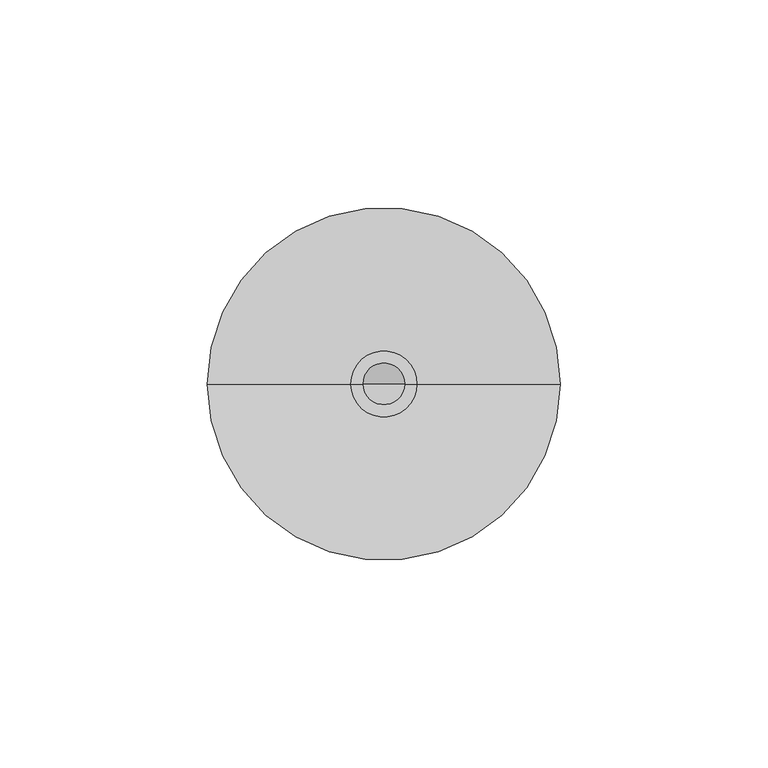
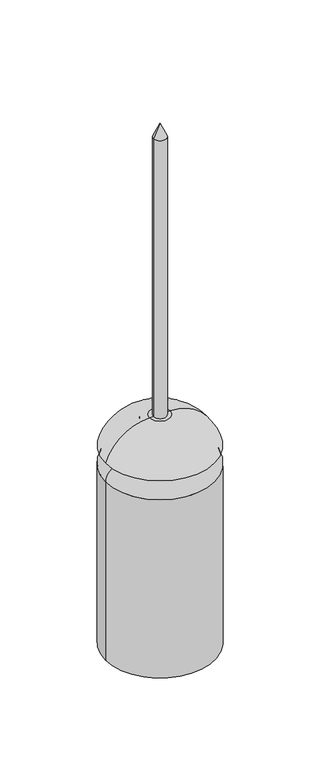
"""IFC4 building model written with IfcOpenShell, lengths in millimetres: proxy geometry, КНС_ESEМолниеприемник_DKC : NI0030_Нержавеющая сталь V4A."""

from ifc_helpers import new_model, si_unit, point, frame, origin, place, context, project, spatial, polyline, circle_curve, ellipse_curve, trimmed, source, transform, mapped, element, save
from ifc_brep_helpers import plane_surface, cylinder_surface, revolved_surface, advanced_brep


def security_devices_906a7fbe(model_context):
    return source(origin(), model_context, "Body", "AdvancedBrep", [
        advanced_brep(
        [(5.0, 0.0, 418.2774654), (-5.0, 0.0, 418.2774654), (0.0, 0.0, 429.0), (5.0, 0.0, 189.5), (-5.0, 0.0, 189.5), (0.0, 0.0, 189.5)],
        [
            (0, 1, circle_curve(frame((0.0, 0.0, 418.2774654), z_axis=(0.0, 0.0, 1.0), x_axis=(-1.0, 0.0, 0.0)), 5.0)),
            (1, 2),
            (2, 0),
            (1, 0, circle_curve(frame((0.0, 0.0, 418.2774654), z_axis=(0.0, 0.0, 1.0), x_axis=(-1.0, 0.0, 0.0)), 5.0)),
            (3, 4, circle_curve(frame((0.0, 0.0, 189.5), z_axis=(0.0, 0.0, 1.0), x_axis=(-1.0, 0.0, 0.0)), 5.0)),
            (4, 1),
            (0, 3),
            (4, 3, circle_curve(frame((0.0, 0.0, 189.5), z_axis=(0.0, 0.0, 1.0), x_axis=(-1.0, 0.0, 0.0)), 5.0)),
            (5, 4),
            (3, 5),
        ],
        [
            revolved_surface(polyline([(0.0, 0.0, 429.0), (-5.0, 0.0, 418.2774654)]), (0.0, 0.0, 2264.3150031), (0.0, 0.0, -1.0)),
            cylinder_surface(frame((0.0, 0.0, 2264.3150031), z_axis=(0.0, 0.0, -1.0), x_axis=(-1.0, 0.0, 0.0)), 5.0),
            plane_surface(frame((0.0, 0.0, 189.5), z_axis=(0.0, 0.0, -1.0), x_axis=(-1.0, 0.0, 0.0))),
        ],
        [
            (0, [[1, 2, 3]]),
            (0, [[4, -3, -2]]),
            (1, [[5, 6, -1, 7]]),
            (1, [[8, -7, -4, -6]]),
            (2, [[9, -5, 10]]),
            (2, [[-10, -8, -9]]),
        ],
    ),
        advanced_brep(
        [(0.0, 0.0, 0.0), (-14.0, 0.0, 0.0), (14.0, 0.0, 0.0), (7.9645399, 0.0, 189.5), (-7.9645399, 0.0, 189.5), (0.0, 0.0, 189.5), (42.5, 0.0, 164.4085195), (-42.5, 0.0, 164.4085195), (41.4469613, 0.0, 164.4085195), (-41.4469613, 0.0, 164.4085195), (14.0, 0.0, 187.9804033), (-14.0, 0.0, 187.9804033), (14.0, 0.0, 159.5), (-14.0, 0.0, 159.5), (29.8018389, 0.0, 159.5), (-29.8018389, 0.0, 159.5), (42.5, 0.0, 148.8449777), (-42.5, 0.0, 148.8449777), (42.5, 0.0, 2.0), (-42.5, 0.0, 2.0), (41.5, 0.0, 2.0), (-41.5, 0.0, 2.0), (41.5, 0.0, 27.0), (-41.5, 0.0, 27.0), (14.0, 0.0, 27.0), (-14.0, 0.0, 27.0)],
        [
            (0, 1),
            (1, 2, circle_curve(frame((0.0, 0.0, 0.0), z_axis=(0.0, 0.0, -1.0), x_axis=(-1.0, 0.0, 0.0)), 14.0)),
            (2, 0),
            (2, 1, circle_curve(frame((0.0, 0.0, 0.0), z_axis=(0.0, 0.0, -1.0), x_axis=(-1.0, 0.0, 0.0)), 14.0)),
            (3, 4, circle_curve(frame((0.0, 0.0, 189.5), z_axis=(0.0, 0.0, 1.0), x_axis=(-1.0, 0.0, 0.0)), 7.9645399)),
            (4, 5),
            (5, 3),
            (4, 3, circle_curve(frame((0.0, 0.0, 189.5), z_axis=(0.0, 0.0, 1.0), x_axis=(-1.0, 0.0, 0.0)), 7.9645399)),
            (6, 7, circle_curve(frame((0.0, 0.0, 164.4085195), z_axis=(0.0, 0.0, 1.0), x_axis=(-1.0, 0.0, 0.0)), 42.5)),
            (7, 4, circle_curve(frame((-7.9645399, 0.0, 153.1872683), z_axis=(0.0, 1.0, 0.0), x_axis=(1.0, 0.0, 0.0)), 36.3127317)),
            (3, 6, circle_curve(frame((7.9645399, 0.0, 153.1872683), z_axis=(0.0, 1.0, 0.0), x_axis=(-1.0, 0.0, 0.0)), 36.3127317)),
            (7, 6, circle_curve(frame((0.0, 0.0, 164.4085195), z_axis=(0.0, 0.0, 1.0), x_axis=(-1.0, 0.0, 0.0)), 42.5)),
            (8, 9, circle_curve(frame((0.0, 0.0, 164.4085195), z_axis=(0.0, 0.0, 1.0), x_axis=(-1.0, 0.0, 0.0)), 41.4469613)),
            (9, 7),
            (6, 8),
            (9, 8, circle_curve(frame((0.0, 0.0, 164.4085195), z_axis=(0.0, 0.0, 1.0), x_axis=(-1.0, 0.0, 0.0)), 41.4469613)),
            (10, 11, circle_curve(frame((0.0, 0.0, 187.9804033), z_axis=(0.0, 0.0, 1.0), x_axis=(-1.0, 0.0, 0.0)), 14.0)),
            (11, 9, circle_curve(frame((-7.9645399, 0.0, 153.1872683), z_axis=(0.0, -1.0, 0.0), x_axis=(1.0, 0.0, 0.0)), 35.3127317)),
            (8, 10, circle_curve(frame((7.9645399, 0.0, 153.1872683), z_axis=(0.0, -1.0, 0.0), x_axis=(-1.0, 0.0, 0.0)), 35.3127317)),
            (11, 10, circle_curve(frame((0.0, 0.0, 187.9804033), z_axis=(0.0, 0.0, 1.0), x_axis=(-1.0, 0.0, 0.0)), 14.0)),
            (12, 13, circle_curve(frame((0.0, 0.0, 159.5), z_axis=(0.0, 0.0, 1.0), x_axis=(-1.0, 0.0, 0.0)), 14.0)),
            (13, 11),
            (10, 12),
            (13, 12, circle_curve(frame((0.0, 0.0, 159.5), z_axis=(0.0, 0.0, 1.0), x_axis=(-1.0, 0.0, 0.0)), 14.0)),
            (14, 15, circle_curve(frame((0.0, 0.0, 159.5), z_axis=(0.0, 0.0, 1.0), x_axis=(-1.0, 0.0, 0.0)), 29.8018389)),
            (15, 13),
            (12, 14),
            (15, 14, circle_curve(frame((0.0, 0.0, 159.5), z_axis=(0.0, 0.0, 1.0), x_axis=(-1.0, 0.0, 0.0)), 29.8018389)),
            (16, 17, circle_curve(frame((0.0, 0.0, 148.8449777), z_axis=(0.0, 0.0, 1.0), x_axis=(-1.0, 0.0, 0.0)), 42.5)),
            (17, 15, circle_curve(frame((-31.6806068, 0.0, 148.8449777), z_axis=(0.0, 1.0, 0.0), x_axis=(1.0, 0.0, 0.0)), 10.8193932)),
            (14, 16, circle_curve(frame((31.6806068, 0.0, 148.8449777), z_axis=(0.0, 1.0, 0.0), x_axis=(-1.0, 0.0, 0.0)), 10.8193932)),
            (17, 16, circle_curve(frame((0.0, 0.0, 148.8449777), z_axis=(0.0, 0.0, 1.0), x_axis=(-1.0, 0.0, 0.0)), 42.5)),
            (18, 19, circle_curve(frame((0.0, 0.0, 2.0), z_axis=(0.0, 0.0, 1.0), x_axis=(-1.0, 0.0, 0.0)), 42.5)),
            (19, 17),
            (16, 18),
            (19, 18, circle_curve(frame((0.0, 0.0, 2.0), z_axis=(0.0, 0.0, 1.0), x_axis=(-1.0, 0.0, 0.0)), 42.5)),
            (20, 21, circle_curve(frame((0.0, 0.0, 2.0), z_axis=(0.0, 0.0, 1.0), x_axis=(-1.0, 0.0, 0.0)), 41.5)),
            (21, 19),
            (18, 20),
            (21, 20, circle_curve(frame((0.0, 0.0, 2.0), z_axis=(0.0, 0.0, 1.0), x_axis=(-1.0, 0.0, 0.0)), 41.5)),
            (22, 23, circle_curve(frame((0.0, 0.0, 27.0), z_axis=(0.0, 0.0, 1.0), x_axis=(-1.0, 0.0, 0.0)), 41.5)),
            (23, 21),
            (20, 22),
            (23, 22, circle_curve(frame((0.0, 0.0, 27.0), z_axis=(0.0, 0.0, 1.0), x_axis=(-1.0, 0.0, 0.0)), 41.5)),
            (24, 25, circle_curve(frame((0.0, 0.0, 27.0), z_axis=(0.0, 0.0, 1.0), x_axis=(-1.0, 0.0, 0.0)), 14.0)),
            (25, 23),
            (22, 24),
            (25, 24, circle_curve(frame((0.0, 0.0, 27.0), z_axis=(0.0, 0.0, 1.0), x_axis=(-1.0, 0.0, 0.0)), 14.0)),
            (1, 25),
            (24, 2),
        ],
        [
            plane_surface(frame((0.0, 0.0, 0.0), z_axis=(0.0, 0.0, -1.0), x_axis=(-1.0, 0.0, 0.0))),
            plane_surface(frame((0.0, 0.0, 189.5), z_axis=(0.0, 0.0, 1.0), x_axis=(-1.0, 0.0, 0.0))),
            revolved_surface(trimmed(ellipse_curve(frame((-7.9645399, 0.0, 153.1872683), z_axis=(0.0, -1.0, 0.0), x_axis=(1.0, 0.0, 0.0)), 36.3127317, 36.3127317), [point((-7.9645399, 0.0, 189.5))], [point((-42.5, 0.0, 164.4085195))], True, "CARTESIAN"), (0.0, 0.0, 122.0), (0.0, 0.0, -1.0)),
            plane_surface(frame((0.0, 0.0, 164.4085195), z_axis=(0.0, 0.0, -1.0), x_axis=(-1.0, 0.0, 0.0))),
            revolved_surface(trimmed(ellipse_curve(frame((-7.9645399, 0.0, 153.1872683), z_axis=(0.0, 1.0, 0.0), x_axis=(1.0, 0.0, 0.0)), 35.3127317, 35.3127317), [point((-41.4469613, 0.0, 164.4085195))], [point((-14.0, 0.0, 187.9804033))], True, "CARTESIAN"), (0.0, 0.0, 122.0), (0.0, 0.0, -1.0)),
            cylinder_surface(frame((0.0, 0.0, 122.0), z_axis=(0.0, 0.0, -1.0), x_axis=(-1.0, 0.0, 0.0)), 14.0),
            plane_surface(frame((0.0, 0.0, 159.5), z_axis=(0.0, 0.0, 1.0), x_axis=(-1.0, 0.0, 0.0))),
            revolved_surface(trimmed(ellipse_curve(frame((-31.6806068, 0.0, 148.8449777), z_axis=(0.0, -1.0, 0.0), x_axis=(1.0, 0.0, 0.0)), 10.8193932, 10.8193932), [point((-29.8018389, 0.0, 159.5))], [point((-42.5, 0.0, 148.8449777))], True, "CARTESIAN"), (0.0, 0.0, 122.0), (0.0, 0.0, -1.0)),
            cylinder_surface(frame((0.0, 0.0, 122.0), z_axis=(0.0, 0.0, -1.0), x_axis=(-1.0, 0.0, 0.0)), 42.5),
            plane_surface(frame((0.0, 0.0, 2.0), z_axis=(0.0, 0.0, -1.0), x_axis=(-1.0, 0.0, 0.0))),
            revolved_surface(polyline([(-41.5, 0.0, 2.0), (-41.5, 0.0, 27.0)]), (0.0, 0.0, 122.0), (0.0, 0.0, -1.0)),
            plane_surface(frame((0.0, 0.0, 27.0), z_axis=(0.0, 0.0, -1.0), x_axis=(-1.0, 0.0, 0.0))),
        ],
        [
            (0, [[1, 2, 3]]),
            (0, [[-3, 4, -1]]),
            (1, [[5, 6, 7]]),
            (1, [[8, -7, -6]]),
            (2, [[9, 10, -5, 11]]),
            (2, [[12, -11, -8, -10]]),
            (3, [[13, 14, -9, 15]]),
            (3, [[16, -15, -12, -14]]),
            (4, [[17, 18, -13, 19]]),
            (4, [[20, -19, -16, -18]]),
            (5, [[21, 22, -17, 23]]),
            (5, [[24, -23, -20, -22]]),
            (6, [[25, 26, -21, 27]]),
            (6, [[28, -27, -24, -26]]),
            (7, [[29, 30, -25, 31]]),
            (7, [[32, -31, -28, -30]]),
            (8, [[33, 34, -29, 35]]),
            (8, [[36, -35, -32, -34]]),
            (9, [[37, 38, -33, 39]]),
            (9, [[40, -39, -36, -38]]),
            (10, [[41, 42, -37, 43]]),
            (10, [[44, -43, -40, -42]]),
            (11, [[45, 46, -41, 47]]),
            (11, [[48, -47, -44, -46]]),
            (5, [[-2, 49, -45, 50]]),
            (5, [[-4, -50, -48, -49]]),
        ],
    ),
    ])


if __name__ == "__main__":
    model = new_model("IFC4")
    model_context = context("Model", 3, world=origin())
    ifc_project = project(units=[si_unit("LENGTHUNIT", "METRE", prefix="MILLI")], contexts=[model_context])
    site = spatial("IfcSite", under=ifc_project)
    building = spatial("IfcBuilding", under=site)
    placement = place(None, origin())
    security_devices_shape = security_devices_906a7fbe(model_context)
    element("IfcBuildingElementProxy", 1, Name="КНС_ESEМолниеприемник_DKC : NI0030_Нержавеющая сталь V4A", ObjectType="КНС_ESEМолниеприемник_DKC : NI0030_Нержавеющая сталь V4A", at=placement, inside=building, context=model_context, shape_type="MappedRepresentation", body=[
        mapped(security_devices_shape, transform((0.0, 0.0, 0.0), x_axis=(1.0, 0.0, 0.0), y_axis=(0.0, 1.0, 0.0), z_axis=(0.0, 0.0, 1.0))),
    ])
    save(model, "model.ifc")
